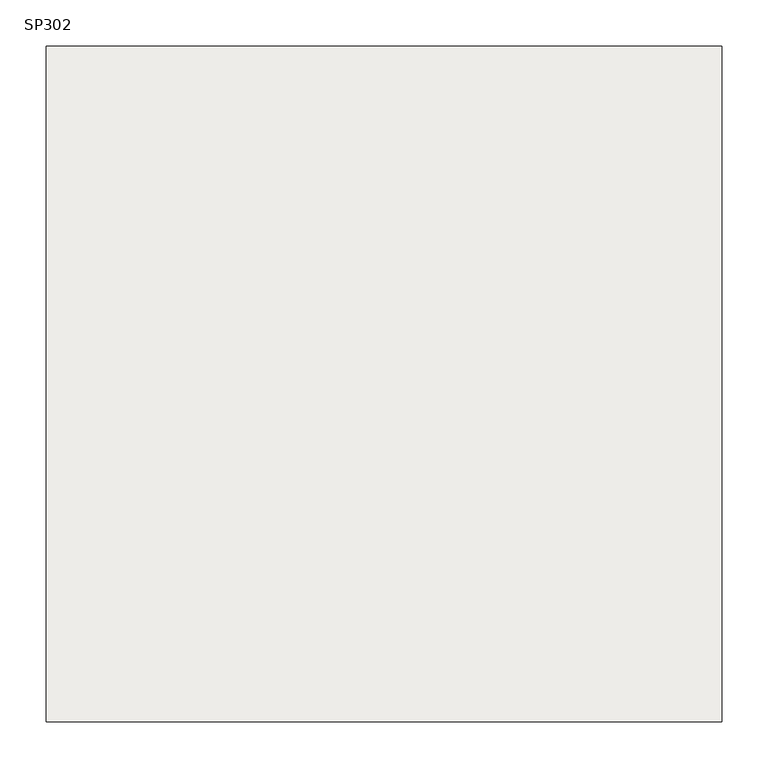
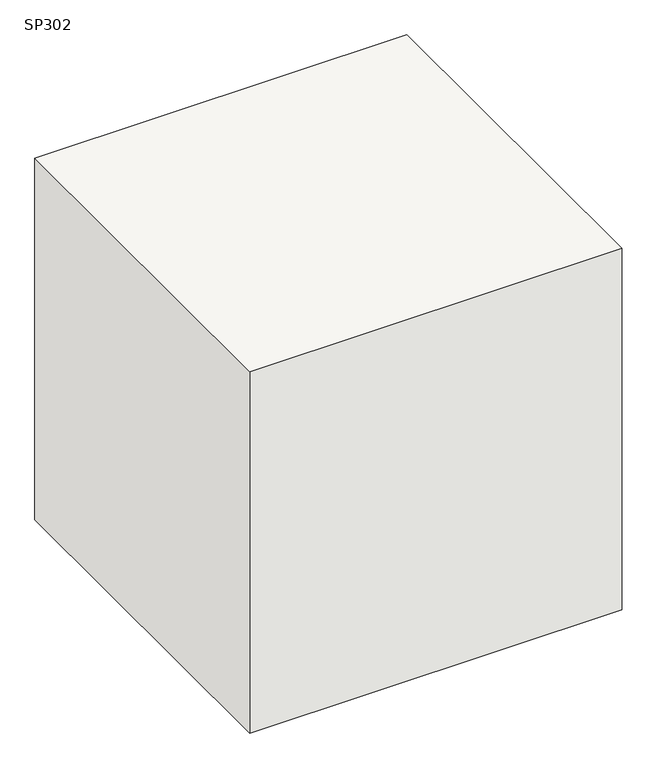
"""IFC4 building model written with IfcOpenShell, lengths in millimetres: slab geometry, 柱形_SP : SP302."""

from ifc_helpers import new_model, si_unit, frame, origin, place, context, project, spatial, polyline, outline, extrude, source, transform, mapped, element, save


def sp302_24c720b1(model_context):
    return source(origin(), model_context, "Body", "SweptSolid", [
        extrude(outline(polyline([(365.0, 365.0), (365.0, -365.0), (-365.0, -365.0), (-365.0, 365.0), (365.0, 365.0)])), frame((0.0, 0.0, -750.0), z_axis=(0.0, 0.0, 1.0), x_axis=(1.0, 0.0, 0.0)), (0.0, 0.0, 1.0), 750.0),
    ])


if __name__ == "__main__":
    model = new_model("IFC4")
    model_context = context("Model", 3, world=origin())
    ifc_project = project(units=[si_unit("LENGTHUNIT", "METRE", prefix="MILLI")], contexts=[model_context])
    site = spatial("IfcSite", under=ifc_project)
    building = spatial("IfcBuilding", under=site)
    placement = place(None, origin())
    sp302_shape = sp302_24c720b1(model_context)
    element("IfcSlab", 1, ObjectType="柱形_SP : SP302", at=placement, inside=building, context=model_context, shape_type="MappedRepresentation", body=[
        mapped(sp302_shape, transform((0.0, 0.0, 0.0), x_axis=(1.0, 0.0, 0.0), y_axis=(0.0, 1.0, 0.0), z_axis=(0.0, 0.0, 1.0))),
    ])
    save(model, "model.ifc")
